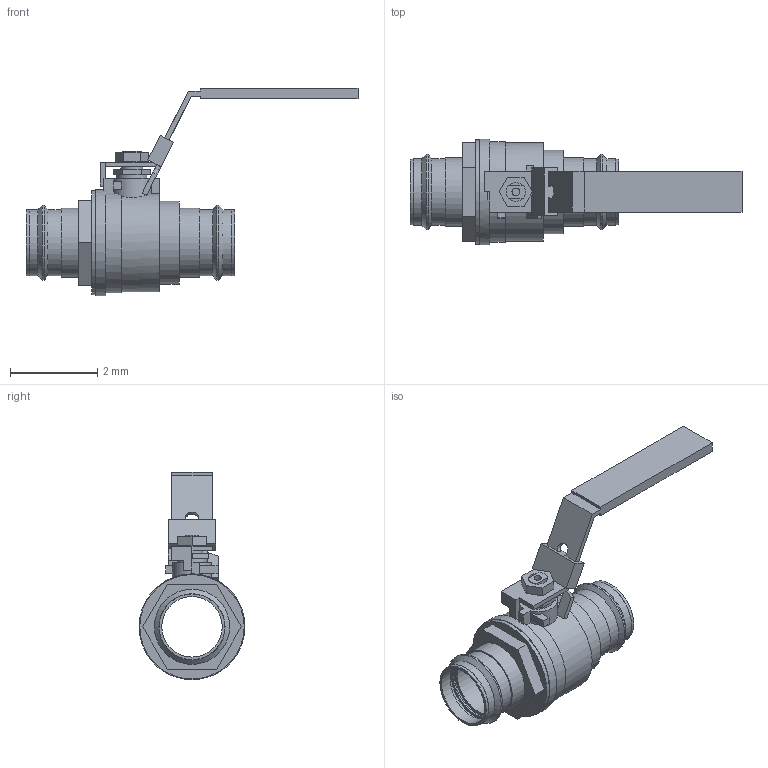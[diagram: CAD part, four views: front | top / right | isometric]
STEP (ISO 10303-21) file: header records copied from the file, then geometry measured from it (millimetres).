
FILE_DESCRIPTION(('Open CASCADE Model'),'2;1');
FILE_NAME('Open CASCADE Shape Model','2022-07-29T14:45:32',('Author'),( 'Open CASCADE'),'Open CASCADE STEP processor 7.3','Open CASCADE 7.3' ,'Unknown');
FILE_SCHEMA(('AUTOMOTIVE_DESIGN { 1 0 10303 214 1 1 1 1 }'));
Length unit declared in the file: millimetre
Products named in the file (10): Open CASCADE STEP translator 7.3 1; Open CASCADE STEP translator 7.3 1.1; Open CASCADE STEP translator 7.3 1.2; Open CASCADE STEP translator 7.3 1.3; Open CASCADE STEP translator 7.3 1.4; Open CASCADE STEP translator 7.3 1.5; Open CASCADE STEP translator 7.3 1.6; Open CASCADE STEP translator 7.3 1.7; Open CASCADE STEP translator 7.3 1.8; Open CASCADE STEP translator 7.3 1.9
Assembly tree (9 placements, depth 2):
  Open CASCADE STEP translator 7.3 1
    Open CASCADE STEP translator 7.3 1.1
    Open CASCADE STEP translator 7.3 1.2
    Open CASCADE STEP translator 7.3 1.3
    Open CASCADE STEP translator 7.3 1.4
    Open CASCADE STEP translator 7.3 1.5
    Open CASCADE STEP translator 7.3 1.6
    Open CASCADE STEP translator 7.3 1.7
    Open CASCADE STEP translator 7.3 1.8
    Open CASCADE STEP translator 7.3 1.9
Bounding box: 7.63 x 2.43 x 4.77 mm (x, y, z)
Volume: 8 mm3; surface area: 83 mm2
Topology: 5 solids, 9 shells, 150 faces, 397 edges, 265 vertices
Faces by surface type: plane 108, cylinder 36, cone 6
Full cylindrical faces by diameter (mm): 0.175 x1, 0.5 x1, 0.688 x1, 1.39 x5, 1.508 x2, 1.52 x8, 1.586 x1, 1.588 x1, 1.73 x2, 1.914 x1, 2.4 x1, 2.432 x1
Entity records: 10379 total; most frequent: CARTESIAN_POINT 2225, DIRECTION 1525, LINE 951, VECTOR 951, ORIENTED_EDGE 780, PCURVE 780, DEFINITIONAL_REPRESENTATION 780, EDGE_CURVE 397
